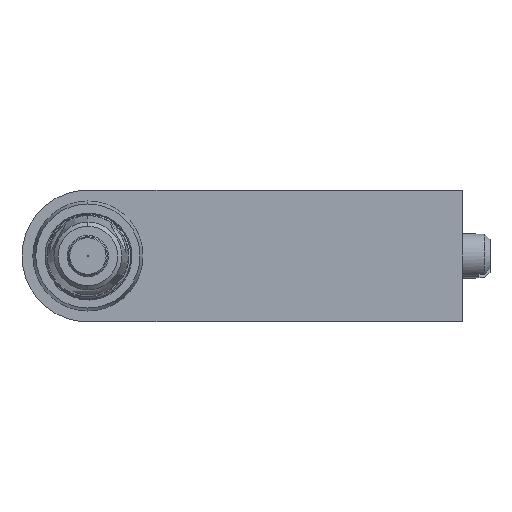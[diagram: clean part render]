
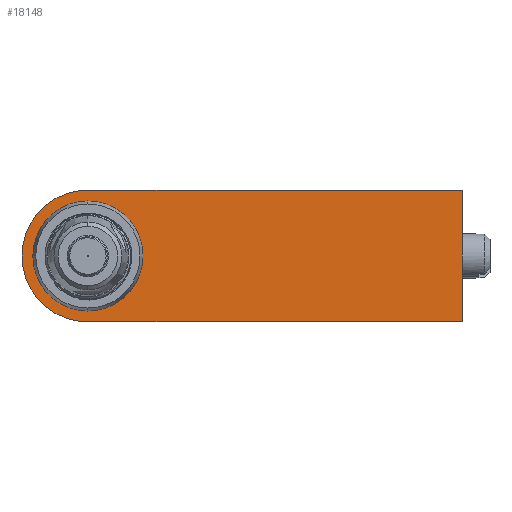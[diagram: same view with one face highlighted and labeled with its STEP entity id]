
A CAD part, front view. The second image highlights one B-rep face of the part: STEP entity #18148.
In plain terms, the highlighted planar face has unit normal (0, -1, 0).
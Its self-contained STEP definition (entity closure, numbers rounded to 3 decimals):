
#3591 = VERTEX_POINT('',#3592);
#3592 = CARTESIAN_POINT('',(40.,0.,0.));
#3607 = PLANE('',#3608);
#3608 = AXIS2_PLACEMENT_3D('',#3609,#3610,#3611);
#3609 = CARTESIAN_POINT('',(40.,8.,-10.));
#3610 = DIRECTION('',(1.,0.,0.));
#3611 = DIRECTION('',(0.,0.,-1.));
#11599 = CYLINDRICAL_SURFACE('',#11600,5.);
#11600 = AXIS2_PLACEMENT_3D('',#11601,#11602,#11603);
#11601 = CARTESIAN_POINT('',(6.,0.,0.));
#11602 = DIRECTION('',(0.,1.,0.));
#11603 = DIRECTION('',(0.,0.,1.));
#11990 = VERTEX_POINT('',#11991);
#11991 = CARTESIAN_POINT('',(6.,0.,-5.));
#12005 = CYLINDRICAL_SURFACE('',#12006,5.);
#12006 = AXIS2_PLACEMENT_3D('',#12007,#12008,#12009);
#12007 = CARTESIAN_POINT('',(6.,0.,0.));
#12008 = DIRECTION('',(0.,1.,0.));
#12009 = DIRECTION('',(0.,0.,1.));
#12017 = EDGE_CURVE('',#11990,#12018,#12020,.T.);
#12018 = VERTEX_POINT('',#12019);
#12019 = CARTESIAN_POINT('',(6.,0.,5.));
#12020 = SURFACE_CURVE('',#12021,(#12026,#12033),.PCURVE_S1.);
#12021 = CIRCLE('',#12022,5.);
#12022 = AXIS2_PLACEMENT_3D('',#12023,#12024,#12025);
#12023 = CARTESIAN_POINT('',(6.,0.,0.));
#12024 = DIRECTION('',(0.,-1.,0.));
#12025 = DIRECTION('',(0.,0.,-1.));
#12026 = PCURVE('',#11599,#12027);
#12027 = DEFINITIONAL_REPRESENTATION('',(#12028),#12032);
#12028 = LINE('',#12029,#12030);
#12029 = CARTESIAN_POINT('',(3.142,0.));
#12030 = VECTOR('',#12031,1.);
#12031 = DIRECTION('',(-1.,0.));
#12032 = ( GEOMETRIC_REPRESENTATION_CONTEXT(2) 
PARAMETRIC_REPRESENTATION_CONTEXT() REPRESENTATION_CONTEXT('2D SPACE',''
  ) );
#12033 = PCURVE('',#12034,#12039);
#12034 = PLANE('',#12035);
#12035 = AXIS2_PLACEMENT_3D('',#12036,#12037,#12038);
#12036 = CARTESIAN_POINT('',(0.,0.,-10.));
#12037 = DIRECTION('',(0.,-1.,0.));
#12038 = DIRECTION('',(0.,0.,-1.));
#12039 = DEFINITIONAL_REPRESENTATION('',(#12040),#12044);
#12040 = CIRCLE('',#12041,5.);
#12041 = AXIS2_PLACEMENT_2D('',#12042,#12043);
#12042 = CARTESIAN_POINT('',(-10.,6.));
#12043 = DIRECTION('',(1.,0.));
#12044 = ( GEOMETRIC_REPRESENTATION_CONTEXT(2) 
PARAMETRIC_REPRESENTATION_CONTEXT() REPRESENTATION_CONTEXT('2D SPACE',''
  ) );
#17317 = PLANE('',#17318);
#17318 = AXIS2_PLACEMENT_3D('',#17319,#17320,#17321);
#17319 = CARTESIAN_POINT('',(6.,0.,-5.982));
#17320 = DIRECTION('',(0.,0.,-1.));
#17321 = DIRECTION('',(-1.,0.,0.));
#17346 = CYLINDRICAL_SURFACE('',#17347,5.982);
#17347 = AXIS2_PLACEMENT_3D('',#17348,#17349,#17350);
#17348 = CARTESIAN_POINT('',(6.,0.,0.));
#17349 = DIRECTION('',(0.,1.,0.));
#17350 = DIRECTION('',(0.,0.,1.));
#17374 = PLANE('',#17375);
#17375 = AXIS2_PLACEMENT_3D('',#17376,#17377,#17378);
#17376 = CARTESIAN_POINT('',(40.,0.,5.982));
#17377 = DIRECTION('',(0.,0.,1.));
#17378 = DIRECTION('',(1.,0.,0.));
#18148 = ADVANCED_FACE('',(#18149,#18269),#12034,.T.);
#18149 = FACE_BOUND('',#18150,.T.);
#18150 = EDGE_LOOP('',(#18151,#18174,#18197,#18220,#18248));
#18151 = ORIENTED_EDGE('',*,*,#18152,.T.);
#18152 = EDGE_CURVE('',#18153,#3591,#18155,.T.);
#18153 = VERTEX_POINT('',#18154);
#18154 = CARTESIAN_POINT('',(40.,0.,-5.982));
#18155 = SURFACE_CURVE('',#18156,(#18160,#18167),.PCURVE_S1.);
#18156 = LINE('',#18157,#18158);
#18157 = CARTESIAN_POINT('',(40.,0.,-10.));
#18158 = VECTOR('',#18159,1.);
#18159 = DIRECTION('',(0.,0.,1.));
#18160 = PCURVE('',#12034,#18161);
#18161 = DEFINITIONAL_REPRESENTATION('',(#18162),#18166);
#18162 = LINE('',#18163,#18164);
#18163 = CARTESIAN_POINT('',(0.,40.));
#18164 = VECTOR('',#18165,1.);
#18165 = DIRECTION('',(-1.,0.));
#18166 = ( GEOMETRIC_REPRESENTATION_CONTEXT(2) 
PARAMETRIC_REPRESENTATION_CONTEXT() REPRESENTATION_CONTEXT('2D SPACE',''
  ) );
#18167 = PCURVE('',#3607,#18168);
#18168 = DEFINITIONAL_REPRESENTATION('',(#18169),#18173);
#18169 = LINE('',#18170,#18171);
#18170 = CARTESIAN_POINT('',(0.,-8.));
#18171 = VECTOR('',#18172,1.);
#18172 = DIRECTION('',(-1.,0.));
#18173 = ( GEOMETRIC_REPRESENTATION_CONTEXT(2) 
PARAMETRIC_REPRESENTATION_CONTEXT() REPRESENTATION_CONTEXT('2D SPACE',''
  ) );
#18174 = ORIENTED_EDGE('',*,*,#18175,.T.);
#18175 = EDGE_CURVE('',#3591,#18176,#18178,.T.);
#18176 = VERTEX_POINT('',#18177);
#18177 = CARTESIAN_POINT('',(40.,0.,5.982));
#18178 = SURFACE_CURVE('',#18179,(#18183,#18190),.PCURVE_S1.);
#18179 = LINE('',#18180,#18181);
#18180 = CARTESIAN_POINT('',(40.,0.,-10.));
#18181 = VECTOR('',#18182,1.);
#18182 = DIRECTION('',(0.,0.,1.));
#18183 = PCURVE('',#12034,#18184);
#18184 = DEFINITIONAL_REPRESENTATION('',(#18185),#18189);
#18185 = LINE('',#18186,#18187);
#18186 = CARTESIAN_POINT('',(0.,40.));
#18187 = VECTOR('',#18188,1.);
#18188 = DIRECTION('',(-1.,0.));
#18189 = ( GEOMETRIC_REPRESENTATION_CONTEXT(2) 
PARAMETRIC_REPRESENTATION_CONTEXT() REPRESENTATION_CONTEXT('2D SPACE',''
  ) );
#18190 = PCURVE('',#3607,#18191);
#18191 = DEFINITIONAL_REPRESENTATION('',(#18192),#18196);
#18192 = LINE('',#18193,#18194);
#18193 = CARTESIAN_POINT('',(0.,-8.));
#18194 = VECTOR('',#18195,1.);
#18195 = DIRECTION('',(-1.,0.));
#18196 = ( GEOMETRIC_REPRESENTATION_CONTEXT(2) 
PARAMETRIC_REPRESENTATION_CONTEXT() REPRESENTATION_CONTEXT('2D SPACE',''
  ) );
#18197 = ORIENTED_EDGE('',*,*,#18198,.F.);
#18198 = EDGE_CURVE('',#18199,#18176,#18201,.T.);
#18199 = VERTEX_POINT('',#18200);
#18200 = CARTESIAN_POINT('',(6.,0.,5.982));
#18201 = SURFACE_CURVE('',#18202,(#18206,#18213),.PCURVE_S1.);
#18202 = LINE('',#18203,#18204);
#18203 = CARTESIAN_POINT('',(40.,0.,5.982));
#18204 = VECTOR('',#18205,1.);
#18205 = DIRECTION('',(1.,0.,0.));
#18206 = PCURVE('',#12034,#18207);
#18207 = DEFINITIONAL_REPRESENTATION('',(#18208),#18212);
#18208 = LINE('',#18209,#18210);
#18209 = CARTESIAN_POINT('',(-15.982,40.));
#18210 = VECTOR('',#18211,1.);
#18211 = DIRECTION('',(0.,1.));
#18212 = ( GEOMETRIC_REPRESENTATION_CONTEXT(2) 
PARAMETRIC_REPRESENTATION_CONTEXT() REPRESENTATION_CONTEXT('2D SPACE',''
  ) );
#18213 = PCURVE('',#17374,#18214);
#18214 = DEFINITIONAL_REPRESENTATION('',(#18215),#18219);
#18215 = LINE('',#18216,#18217);
#18216 = CARTESIAN_POINT('',(0.,0.));
#18217 = VECTOR('',#18218,1.);
#18218 = DIRECTION('',(1.,0.));
#18219 = ( GEOMETRIC_REPRESENTATION_CONTEXT(2) 
PARAMETRIC_REPRESENTATION_CONTEXT() REPRESENTATION_CONTEXT('2D SPACE',''
  ) );
#18220 = ORIENTED_EDGE('',*,*,#18221,.F.);
#18221 = EDGE_CURVE('',#18222,#18199,#18224,.T.);
#18222 = VERTEX_POINT('',#18223);
#18223 = CARTESIAN_POINT('',(6.,0.,-5.982));
#18224 = SURFACE_CURVE('',#18225,(#18230,#18241),.PCURVE_S1.);
#18225 = CIRCLE('',#18226,5.982);
#18226 = AXIS2_PLACEMENT_3D('',#18227,#18228,#18229);
#18227 = CARTESIAN_POINT('',(6.,0.,0.));
#18228 = DIRECTION('',(0.,1.,0.));
#18229 = DIRECTION('',(0.,0.,1.));
#18230 = PCURVE('',#12034,#18231);
#18231 = DEFINITIONAL_REPRESENTATION('',(#18232),#18240);
#18232 = ( BOUNDED_CURVE() B_SPLINE_CURVE(2,(#18233,#18234,#18235,#18236
    ,#18237,#18238,#18239),.UNSPECIFIED.,.T.,.F.) 
B_SPLINE_CURVE_WITH_KNOTS((1,2,2,2,2,1),(-2.094,0.,
    2.094,4.189,6.283,8.378),
.UNSPECIFIED.) CURVE() GEOMETRIC_REPRESENTATION_ITEM() 
RATIONAL_B_SPLINE_CURVE((1.,0.5,1.,0.5,1.,0.5,1.)) REPRESENTATION_ITEM(
  '') );
#18233 = CARTESIAN_POINT('',(-15.982,6.));
#18234 = CARTESIAN_POINT('',(-15.982,16.361));
#18235 = CARTESIAN_POINT('',(-7.009,11.18));
#18236 = CARTESIAN_POINT('',(1.963,6.));
#18237 = CARTESIAN_POINT('',(-7.009,0.82));
#18238 = CARTESIAN_POINT('',(-15.982,-4.361));
#18239 = CARTESIAN_POINT('',(-15.982,6.));
#18240 = ( GEOMETRIC_REPRESENTATION_CONTEXT(2) 
PARAMETRIC_REPRESENTATION_CONTEXT() REPRESENTATION_CONTEXT('2D SPACE',''
  ) );
#18241 = PCURVE('',#17346,#18242);
#18242 = DEFINITIONAL_REPRESENTATION('',(#18243),#18247);
#18243 = LINE('',#18244,#18245);
#18244 = CARTESIAN_POINT('',(0.,0.));
#18245 = VECTOR('',#18246,1.);
#18246 = DIRECTION('',(1.,0.));
#18247 = ( GEOMETRIC_REPRESENTATION_CONTEXT(2) 
PARAMETRIC_REPRESENTATION_CONTEXT() REPRESENTATION_CONTEXT('2D SPACE',''
  ) );
#18248 = ORIENTED_EDGE('',*,*,#18249,.F.);
#18249 = EDGE_CURVE('',#18153,#18222,#18250,.T.);
#18250 = SURFACE_CURVE('',#18251,(#18255,#18262),.PCURVE_S1.);
#18251 = LINE('',#18252,#18253);
#18252 = CARTESIAN_POINT('',(6.,0.,-5.982));
#18253 = VECTOR('',#18254,1.);
#18254 = DIRECTION('',(-1.,0.,0.));
#18255 = PCURVE('',#12034,#18256);
#18256 = DEFINITIONAL_REPRESENTATION('',(#18257),#18261);
#18257 = LINE('',#18258,#18259);
#18258 = CARTESIAN_POINT('',(-4.018,6.));
#18259 = VECTOR('',#18260,1.);
#18260 = DIRECTION('',(0.,-1.));
#18261 = ( GEOMETRIC_REPRESENTATION_CONTEXT(2) 
PARAMETRIC_REPRESENTATION_CONTEXT() REPRESENTATION_CONTEXT('2D SPACE',''
  ) );
#18262 = PCURVE('',#17317,#18263);
#18263 = DEFINITIONAL_REPRESENTATION('',(#18264),#18268);
#18264 = LINE('',#18265,#18266);
#18265 = CARTESIAN_POINT('',(0.,0.));
#18266 = VECTOR('',#18267,1.);
#18267 = DIRECTION('',(1.,0.));
#18268 = ( GEOMETRIC_REPRESENTATION_CONTEXT(2) 
PARAMETRIC_REPRESENTATION_CONTEXT() REPRESENTATION_CONTEXT('2D SPACE',''
  ) );
#18269 = FACE_BOUND('',#18270,.T.);
#18270 = EDGE_LOOP('',(#18271,#18293));
#18271 = ORIENTED_EDGE('',*,*,#18272,.F.);
#18272 = EDGE_CURVE('',#12018,#11990,#18273,.T.);
#18273 = SURFACE_CURVE('',#18274,(#18279,#18286),.PCURVE_S1.);
#18274 = CIRCLE('',#18275,5.);
#18275 = AXIS2_PLACEMENT_3D('',#18276,#18277,#18278);
#18276 = CARTESIAN_POINT('',(6.,0.,0.));
#18277 = DIRECTION('',(0.,-1.,0.));
#18278 = DIRECTION('',(0.,0.,-1.));
#18279 = PCURVE('',#12034,#18280);
#18280 = DEFINITIONAL_REPRESENTATION('',(#18281),#18285);
#18281 = CIRCLE('',#18282,5.);
#18282 = AXIS2_PLACEMENT_2D('',#18283,#18284);
#18283 = CARTESIAN_POINT('',(-10.,6.));
#18284 = DIRECTION('',(1.,0.));
#18285 = ( GEOMETRIC_REPRESENTATION_CONTEXT(2) 
PARAMETRIC_REPRESENTATION_CONTEXT() REPRESENTATION_CONTEXT('2D SPACE',''
  ) );
#18286 = PCURVE('',#12005,#18287);
#18287 = DEFINITIONAL_REPRESENTATION('',(#18288),#18292);
#18288 = LINE('',#18289,#18290);
#18289 = CARTESIAN_POINT('',(9.425,0.));
#18290 = VECTOR('',#18291,1.);
#18291 = DIRECTION('',(-1.,0.));
#18292 = ( GEOMETRIC_REPRESENTATION_CONTEXT(2) 
PARAMETRIC_REPRESENTATION_CONTEXT() REPRESENTATION_CONTEXT('2D SPACE',''
  ) );
#18293 = ORIENTED_EDGE('',*,*,#12017,.F.);
